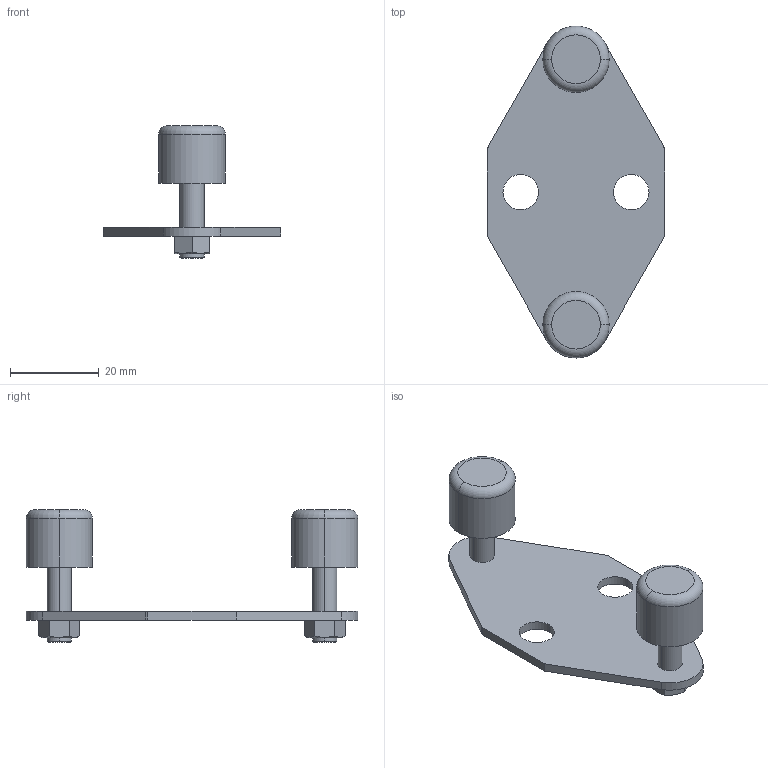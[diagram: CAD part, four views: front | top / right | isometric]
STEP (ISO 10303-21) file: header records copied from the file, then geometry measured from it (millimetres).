
FILE_DESCRIPTION (( 'STEP AP203' ), '1' );
FILE_NAME ('MG0640P-8.STEP', '2024-02-19T13:16:59', ( '' ), ( '' ), 'SwSTEP 2.0', 'SolidWorks 2022', '' );
FILE_SCHEMA (( 'CONFIG_CONTROL_DESIGN' ));
Length unit declared in the file: millimetre
Products named in the file (1): MG0640P-8
Bounding box: 40 x 75 x 30 mm (x, y, z)
Volume: 9533.5 mm3; surface area: 6852.9 mm2
Topology: 1 solids, 1 shells, 62 faces, 148 edges, 96 vertices
Faces by surface type: bspline 23, plane 16, cylinder 13, cone 6, torus 4
Entity records: 1974 total; most frequent: CARTESIAN_POINT 534, ORIENTED_EDGE 296, DIRECTION 260, EDGE_CURVE 148, AXIS2_PLACEMENT_3D 96, VERTEX_POINT 96, EDGE_LOOP 74, VECTOR 68
